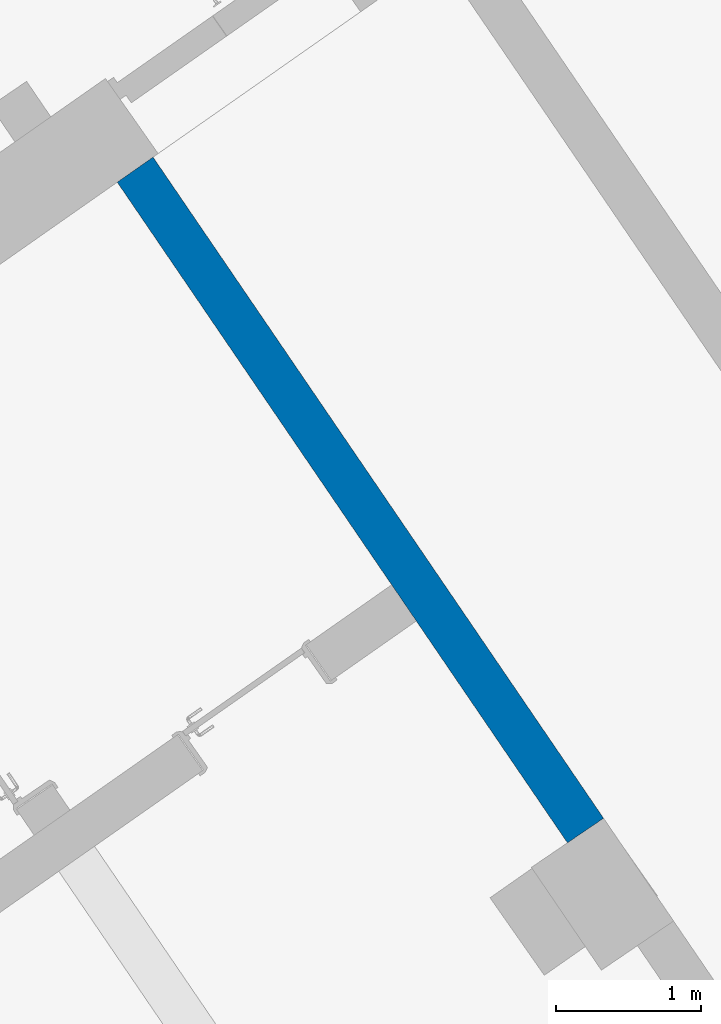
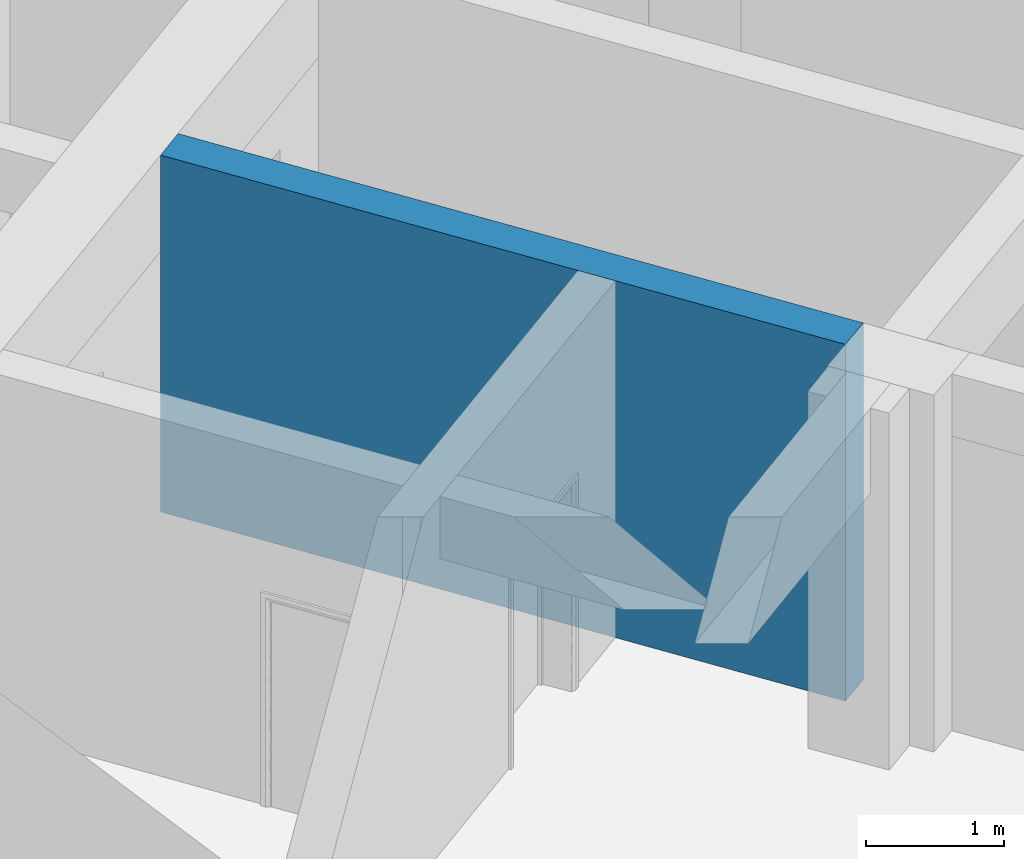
# One storey, part 20 of 112: 1 wall.
"""IFC2X3 building model written with IfcOpenShell, lengths in millimetres."""

from ifc_helpers import new_model, entity, si_unit, converted_unit, derived_unit, direction, frame, origin, place, context, subcontext, project, spatial, polyline, outline, extrude, material, layer, layer_set, layer_usage, type_object, element, save


model = new_model("IFC2X3")

# Units and contexts
model_context = context("Model", 3, precision=0.01, world=origin(), true_north=direction((6.123031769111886e-17, 1.0)))
body_context = subcontext(model_context, "Body", "Model", "MODEL_VIEW")
ifc_project = project(units=[si_unit("LENGTHUNIT", "METRE", prefix="MILLI"), si_unit("AREAUNIT", "SQUARE_METRE"), si_unit("VOLUMEUNIT", "CUBIC_METRE"), converted_unit("PLANEANGLEUNIT", "DEGREE", entity("IfcRatioMeasure", 0.017453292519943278), si_unit("PLANEANGLEUNIT", "RADIAN"), dimensions=[0, 0, 0, 0, 0, 0, 0]), si_unit("MASSUNIT", "GRAM", prefix="KILO"), derived_unit("MASSDENSITYUNIT", [(si_unit("MASSUNIT", "GRAM", prefix="KILO"), 1), (si_unit("LENGTHUNIT", "METRE"), -3)]), derived_unit("MOMENTOFINERTIAUNIT", [(si_unit("LENGTHUNIT", "METRE"), 4)]), si_unit("TIMEUNIT", "SECOND"), si_unit("FREQUENCYUNIT", "HERTZ"), si_unit("THERMODYNAMICTEMPERATUREUNIT", "DEGREE_CELSIUS"), derived_unit("THERMALTRANSMITTANCEUNIT", [(si_unit("MASSUNIT", "GRAM", prefix="KILO"), 1), (si_unit("THERMODYNAMICTEMPERATUREUNIT", "KELVIN"), -1), (si_unit("TIMEUNIT", "SECOND"), -3)]), derived_unit("THERMALCONDUCTANCEUNIT", [(si_unit("MASSUNIT", "GRAM", prefix="KILO"), 1), (si_unit("LENGTHUNIT", "METRE"), 1), (si_unit("THERMODYNAMICTEMPERATUREUNIT", "KELVIN"), -1), (si_unit("TIMEUNIT", "SECOND"), -3)]), derived_unit("VOLUMETRICFLOWRATEUNIT", [(si_unit("LENGTHUNIT", "METRE"), 3), (si_unit("TIMEUNIT", "SECOND"), -1)]), derived_unit("MASSFLOWRATEUNIT", [(si_unit("MASSUNIT", "GRAM", prefix="KILO"), 1), (si_unit("TIMEUNIT", "SECOND"), -1)]), derived_unit("ROTATIONALFREQUENCYUNIT", [(si_unit("TIMEUNIT", "SECOND"), -1)]), si_unit("ELECTRICCURRENTUNIT", "AMPERE"), si_unit("ELECTRICVOLTAGEUNIT", "VOLT"), si_unit("POWERUNIT", "WATT"), converted_unit("FORCEUNIT", "KIP", entity("IfcRatioMeasure", 2.088543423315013e-05), si_unit("FORCEUNIT", "NEWTON"), dimensions=[1, 1, -2, 0, 0, 0, 0]), si_unit("ILLUMINANCEUNIT", "LUX"), si_unit("LUMINOUSFLUXUNIT", "LUMEN"), si_unit("LUMINOUSINTENSITYUNIT", "CANDELA"), derived_unit("USERDEFINED", [(si_unit("MASSUNIT", "GRAM", prefix="KILO"), -1), (si_unit("LENGTHUNIT", "METRE"), -2), (si_unit("TIMEUNIT", "SECOND"), 3), (si_unit("LUMINOUSFLUXUNIT", "LUMEN"), 1)]), derived_unit("USERDEFINED", [(si_unit("MASSUNIT", "GRAM", prefix="KILO"), 1), (si_unit("LENGTHUNIT", "METRE"), 3), (si_unit("TIMEUNIT", "SECOND"), -3), (si_unit("ELECTRICCURRENTUNIT", "AMPERE"), -2)]), derived_unit("USERDEFINED", [(si_unit("LENGTHUNIT", "METRE"), 2), (si_unit("TIMEUNIT", "SECOND"), -2)]), derived_unit("SOUNDPOWERUNIT", [(si_unit("MASSUNIT", "GRAM", prefix="KILO"), 1), (si_unit("LENGTHUNIT", "METRE"), 2), (si_unit("TIMEUNIT", "SECOND"), -3)]), derived_unit("SOUNDPRESSUREUNIT", [(si_unit("MASSUNIT", "GRAM", prefix="KILO"), 1), (si_unit("LENGTHUNIT", "METRE"), -1), (si_unit("TIMEUNIT", "SECOND"), -2)]), derived_unit("LINEARVELOCITYUNIT", [(si_unit("LENGTHUNIT", "METRE"), 1), (si_unit("TIMEUNIT", "SECOND"), -1)]), si_unit("PRESSUREUNIT", "PASCAL"), derived_unit("USERDEFINED", [(si_unit("LENGTHUNIT", "METRE"), -2), (si_unit("MASSUNIT", "GRAM", prefix="KILO"), 1), (si_unit("TIMEUNIT", "SECOND"), -2)]), derived_unit("LINEARFORCEUNIT", [(si_unit("MASSUNIT", "GRAM", prefix="KILO"), 1), (si_unit("LENGTHUNIT", "METRE"), 1), (si_unit("TIMEUNIT", "SECOND"), -2), (si_unit("LENGTHUNIT", "METRE"), -1)]), derived_unit("PLANARFORCEUNIT", [(si_unit("MASSUNIT", "GRAM", prefix="KILO"), 1), (si_unit("LENGTHUNIT", "METRE"), 1), (si_unit("TIMEUNIT", "SECOND"), -2), (si_unit("LENGTHUNIT", "METRE"), -2)]), derived_unit("SPECIFICHEATCAPACITYUNIT", [(si_unit("LENGTHUNIT", "METRE"), 2), (si_unit("TIMEUNIT", "SECOND"), -2), (si_unit("THERMODYNAMICTEMPERATUREUNIT", "KELVIN"), -1)]), derived_unit("VAPORPERMEABILITYUNIT", [(si_unit("TIMEUNIT", "SECOND"), 1), (si_unit("LENGTHUNIT", "METRE"), -1)]), derived_unit("DYNAMICVISCOSITYUNIT", [(si_unit("MASSUNIT", "GRAM", prefix="KILO"), 1), (si_unit("LENGTHUNIT", "METRE"), -1), (si_unit("TIMEUNIT", "SECOND"), -1)]), derived_unit("THERMALEXPANSIONCOEFFICIENTUNIT", [(si_unit("THERMODYNAMICTEMPERATUREUNIT", "KELVIN"), -1)])], contexts=[model_context])

# Site, building, storey
site_placement = place(None, frame((0.0, 0.0, 0.0), z_axis=(0.0, 0.0, 1.0), x_axis=(0.8191520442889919, 0.5735764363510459, 0.0)))
site = spatial("IfcSite", under=ifc_project, at=site_placement, Name="Default", CompositionType="ELEMENT")
building_placement = place(site_placement, origin())
building = spatial("IfcBuilding", under=site, at=building_placement, CompositionType="ELEMENT")
storey_placement = place(building_placement, frame((0.0, 0.0, -3600.0)))
storey = spatial("IfcBuildingStorey", under=building, at=storey_placement, Name="0.UG -3.60", CompositionType="ELEMENT", Elevation=-3600.0000000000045)

# Wall
ifc_material = material(Name="Analytical Wall Surface_CJC")
ifc_layer = layer(ifc_material, 300.0)
ifc_layer_set = layer_set([ifc_layer], Name="Basic Wall:Wand_Innen_30")
ifc_layer_usage = layer_usage(ifc_layer_set, "AXIS2", "POSITIVE", -150.0)
wall_type = type_object("IfcWallType", Name="Basic Wall:Wand_Innen_30", PredefinedType="STANDARD", material=ifc_layer_set)
wall_placement = place(storey_placement, frame((-216876.20685309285, 97723.40268101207, 300.0), z_axis=(0.0, 0.0, 1.0), x_axis=(0.01266535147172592, 0.9999197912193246, 0.0)))
element("IfcWallStandardCase", 1, at=wall_placement, inside=storey, type_object=wall_type, material=ifc_layer_usage, Name="Basic Wall:Wand_Innen_30", ObjectType="Basic Wall:Wand_Innen_30", context=body_context, shape_type="SweptSolid", body=[
    extrude(outline(polyline([(5500.297208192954, -150.0), (5496.49729796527, 150.0), (2146.2285769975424, 150.0), (1846.204512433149, 150.0), (0.0, 150.0), (0.0, -150.0), (5500.297208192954, -150.0)])), origin(), (0.0, 0.0, 1.0), 3150.0),
])

save(model, "model.ifc")
